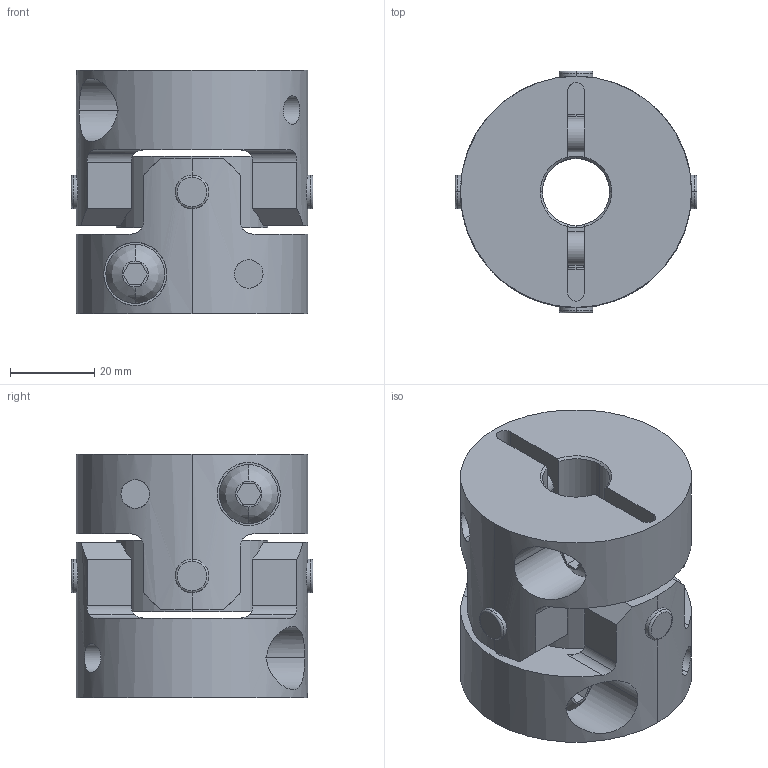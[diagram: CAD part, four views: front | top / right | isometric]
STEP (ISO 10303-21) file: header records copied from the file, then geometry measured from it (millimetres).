
FILE_DESCRIPTION((''),'2;1');
FILE_NAME('UA-55C-16×16.stp','2013-05-22T11:54:24',(''),(''),'AutoCAD STEP 2000i','AutoCAD 2000i',', , ');
FILE_SCHEMA(('CONFIG_CONTROL_DESIGN'));
Length unit declared in the file: millimetre
Products named in the file (6): UA-55C-10×10; 忣兜1; UA-5502-D10-1; BTN-M8; UA-5502-D10; UA55-SEN
Assembly tree (6 placements, depth 3):
  UA-55C-10×10
    忣兜1
    UA-5502-D10-1
      BTN-M8
    UA-5502-D10
      BTN-M8
    UA55-SEN
Bounding box: 57.55 x 57.55 x 58 mm (x, y, z)
Volume: 98136.5 mm3; surface area: 31748.7 mm2
Topology: 1 solids, 1 shells, 206 faces, 554 edges, 364 vertices
Faces by surface type: cylinder 96, plane 78, cone 16, bspline 8, torus 8
Entity records: 8383 total; most frequent: CARTESIAN_POINT 3067, ORIENTED_EDGE 1108, DIRECTION 1064, EDGE_CURVE 554, AXIS2_PLACEMENT_3D 409, VERTEX_POINT 364, VECTOR 246, LINE 246
